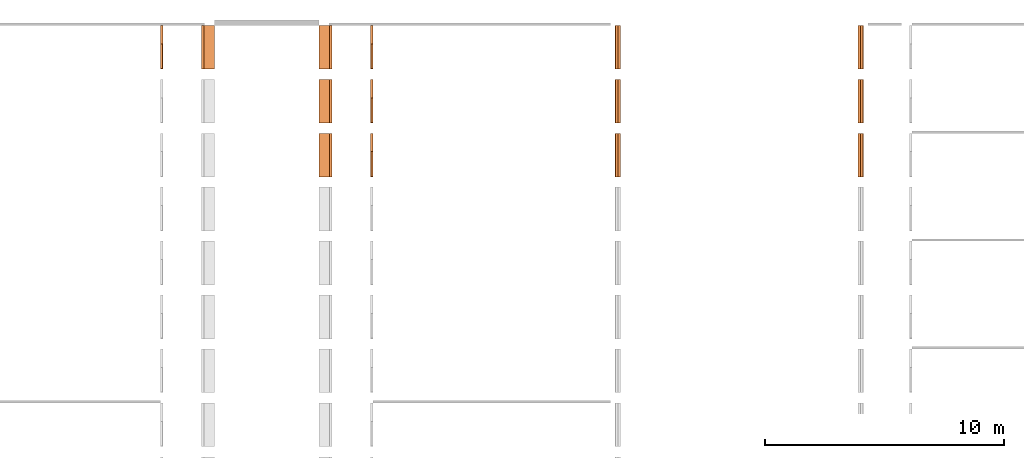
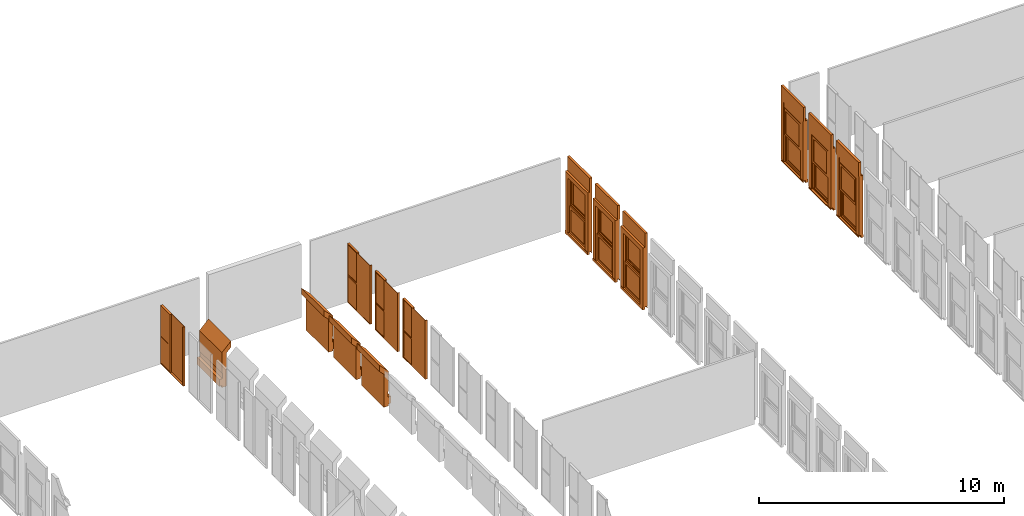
# One storey, part 15 of 16: 14 proxies.
"""IFC2X3 building model written with IfcOpenShell, lengths in millimetres."""

from ifc_helpers import new_model, entity, si_unit, converted_unit, derived_unit, direction, frame, frame_2d, origin, origin_2d_with_axis, place, context, subcontext, project, spatial, polyline, rectangle, outline, extrude, source, transform, mapped, material, material_list, type_object, type_shapes, element, save


model = new_model("IFC2X3")

# Units and contexts
model_context = context("Model", 3, precision=0.01, world=origin(), true_north=direction((6.12303176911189e-17, 1.0)))
body_context = subcontext(model_context, "Body", "Model", "MODEL_VIEW")
ifc_project = project(units=[si_unit("LENGTHUNIT", "METRE", prefix="MILLI"), si_unit("AREAUNIT", "SQUARE_METRE"), si_unit("VOLUMEUNIT", "CUBIC_METRE"), converted_unit("PLANEANGLEUNIT", "DEGREE", entity("IfcRatioMeasure", 0.0174532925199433), si_unit("PLANEANGLEUNIT", "RADIAN"), dimensions=[0, 0, 0, 0, 0, 0, 0]), si_unit("MASSUNIT", "GRAM", prefix="KILO"), derived_unit("MASSDENSITYUNIT", [(si_unit("MASSUNIT", "GRAM", prefix="KILO"), 1), (si_unit("LENGTHUNIT", "METRE"), -3)]), derived_unit("MOMENTOFINERTIAUNIT", [(si_unit("LENGTHUNIT", "METRE"), 4)]), si_unit("TIMEUNIT", "SECOND"), si_unit("FREQUENCYUNIT", "HERTZ"), si_unit("THERMODYNAMICTEMPERATUREUNIT", "DEGREE_CELSIUS"), derived_unit("THERMALTRANSMITTANCEUNIT", [(si_unit("MASSUNIT", "GRAM", prefix="KILO"), 1), (si_unit("THERMODYNAMICTEMPERATUREUNIT", "KELVIN"), -1), (si_unit("TIMEUNIT", "SECOND"), -3)]), derived_unit("VOLUMETRICFLOWRATEUNIT", [(si_unit("LENGTHUNIT", "METRE"), 3), (si_unit("TIMEUNIT", "SECOND"), -1)]), si_unit("ELECTRICCURRENTUNIT", "AMPERE"), si_unit("ELECTRICVOLTAGEUNIT", "VOLT"), si_unit("POWERUNIT", "WATT"), si_unit("FORCEUNIT", "NEWTON", prefix="KILO"), si_unit("ILLUMINANCEUNIT", "LUX"), si_unit("LUMINOUSFLUXUNIT", "LUMEN"), si_unit("LUMINOUSINTENSITYUNIT", "CANDELA"), derived_unit("USERDEFINED", [(si_unit("MASSUNIT", "GRAM", prefix="KILO"), -1), (si_unit("LENGTHUNIT", "METRE"), -2), (si_unit("TIMEUNIT", "SECOND"), 3), (si_unit("LUMINOUSFLUXUNIT", "LUMEN"), 1)]), derived_unit("LINEARVELOCITYUNIT", [(si_unit("LENGTHUNIT", "METRE"), 1), (si_unit("TIMEUNIT", "SECOND"), -1)]), si_unit("PRESSUREUNIT", "PASCAL"), derived_unit("USERDEFINED", [(si_unit("LENGTHUNIT", "METRE"), -2), (si_unit("MASSUNIT", "GRAM", prefix="KILO"), 1), (si_unit("TIMEUNIT", "SECOND"), -2)]), derived_unit("LINEARFORCEUNIT", [(si_unit("MASSUNIT", "GRAM", prefix="KILO"), 1), (si_unit("LENGTHUNIT", "METRE"), 1), (si_unit("TIMEUNIT", "SECOND"), -2), (si_unit("LENGTHUNIT", "METRE"), -1)]), derived_unit("PLANARFORCEUNIT", [(si_unit("MASSUNIT", "GRAM", prefix="KILO"), 1), (si_unit("LENGTHUNIT", "METRE"), 1), (si_unit("TIMEUNIT", "SECOND"), -2), (si_unit("LENGTHUNIT", "METRE"), -2)])], contexts=[model_context])

# Site, building, storey
site_placement = place(None, frame((10627.5135316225, 21939.0796949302, 0.0)))
site = spatial("IfcSite", under=ifc_project, at=site_placement, Name="Default", CompositionType="ELEMENT")
building_placement = place(site_placement, origin())
building = spatial("IfcBuilding", under=site, at=building_placement, CompositionType="ELEMENT")
storey_placement = place(building_placement, frame((0.0, 0.0, 3660.0)))
storey = spatial("IfcBuildingStorey", under=building, at=storey_placement, Name="R+1", CompositionType="ELEMENT", Elevation=3660.0)

# Proxies
ifc_material_1 = material(Name="PVC, Flexible")
ifc_material_2 = material(Name="Glass")
ifc_material_list_1 = material_list([ifc_material_1, ifc_material_2])
building_element_proxy_type_1 = type_object("IfcBuildingElementProxyType", Name="FENETRE.dwg:Fenetre ext 296+70", PredefinedType="NOTDEFINED", material=ifc_material_1)
shared_shape_1 = source(origin(), body_context, "Body", "SweptSolid", [
    extrude(rectangle(XDim=1829.99999999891, YDim=112.500043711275, at=origin_2d_with_axis()), frame((-10.4189092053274, 56.2500218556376, 2960.0), z_axis=(0.0, 0.0, 1.0), x_axis=(-1.0, 0.0, 0.0)), (0.0, 0.0, 1.0), 700.0),
    extrude(outline(polyline([(-68.5678005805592, -14.3879872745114), (-72.4883397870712, -33.9999574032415), (-67.5853472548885, -34.9800922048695), (-63.9024543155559, -16.5569155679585), (44.3087537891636, -16.5569155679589), (54.1101018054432, 32.4730097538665), (40.6268723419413, 35.1683804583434), (40.1368049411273, 32.7168841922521), (51.168538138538, 30.5115808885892), (42.1928709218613, -14.3879872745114), (-68.5678005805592, -14.3879872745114)])), frame((-925.418909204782, 66.917049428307, -47.5499763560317), z_axis=(-1.0, 0.0, 0.0), x_axis=(0.0, 0.980598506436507, -0.196026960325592)), (0.0, 0.0, -1.0), 1829.99999999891),
    extrude(outline(polyline([(-64.667066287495, -56.2500218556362), (66.1666874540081, -56.2500218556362), (66.1666874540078, 56.2500218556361), (-67.6663086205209, 56.2500218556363), (-64.667066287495, -56.2500218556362)])), frame((-925.418909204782, -56.2500218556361, -63.833312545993), z_axis=(1.0, 0.0, 0.0), x_axis=(0.0, 0.0, -1.0)), (0.0, 0.0, 1.0), 1829.99999999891),
    extrude(outline(polyline([(-55.5555555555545, 97.0007159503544), (-55.5555555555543, -5.85738417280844), (-55.5555555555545, -95.357341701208), (-45.5555555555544, -95.3573417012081), (-45.5555555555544, -105.357341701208), (174.444444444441, -105.357341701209), (174.444444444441, 106.642659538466), (-45.5555555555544, 106.642659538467), (-45.5555555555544, 97.0007159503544), (-55.5555555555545, 97.0007159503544)])), frame((849.025535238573, 5.85738417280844, 0.0), z_axis=(0.0, 0.0, -1.0), x_axis=(-1.0, 0.0, 0.0)), (0.0, 0.0, -1.0), 2960.0),
    extrude(rectangle(XDim=199.499957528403, YDim=1369.99999999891, at=origin_2d_with_axis()), frame((-10.4189092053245, 0.250021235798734, 2730.0), z_axis=(0.0, 0.0, 1.0), x_axis=(0.0, 1.0, 0.0)), (0.0, 0.0, 1.0), 230.000000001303),
    extrude(outline(polyline([(-97.0007159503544, -55.5555555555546), (5.85738417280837, -55.5555555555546), (95.357341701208, -55.5555555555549), (95.357341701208, -45.5555555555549), (105.357341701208, -45.5555555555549), (105.357341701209, 174.44444444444), (-106.642659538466, 174.444444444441), (-106.642659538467, -45.5555555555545), (-97.0007159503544, -45.5555555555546), (-97.0007159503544, -55.5555555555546)])), frame((-869.863353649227, 5.85738417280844, 0.0), z_axis=(0.0, 0.0, 1.0), x_axis=(0.0, -1.0, 0.0)), (0.0, 0.0, 1.0), 2960.0),
    extrude(rectangle(XDim=1.0, YDim=1079.99999999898, at=origin_2d_with_axis()), frame((-10.4189092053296, -19.5, 130.0), z_axis=(0.0, 0.0, 1.0), x_axis=(0.0, 1.0, 0.0)), (0.0, 0.0, 1.0), 1120.00000000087),
    extrude(rectangle(XDim=1.0, YDim=1079.99999999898, at=frame_2d((-4.21884749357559e-15, 0.0), x_axis=(1.0, 0.0))), frame((-10.4189092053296, -30.5, 130.0), z_axis=(0.0, 0.0, 1.0), x_axis=(0.0, 1.0, 0.0)), (0.0, 0.0, 1.0), 1120.00000000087),
    extrude(rectangle(XDim=1.0, YDim=1079.99999999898, at=frame_2d((-4.21884749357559e-15, 0.0), x_axis=(1.0, 0.0))), frame((-10.4189092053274, 69.5, 1465.0), z_axis=(0.0, 0.0, 1.0), x_axis=(0.0, 1.0, 0.0)), (0.0, 0.0, 1.0), 1120.0),
    extrude(rectangle(XDim=0.999999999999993, YDim=1079.99999999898, at=frame_2d((-8.46545056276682e-15, 0.0), x_axis=(1.0, 0.0))), frame((-10.4189092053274, 80.5, 1465.0), z_axis=(0.0, 0.0, 1.0), x_axis=(0.0, 1.0, 0.0)), (0.0, 0.0, 1.0), 1120.00000000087),
    extrude(outline(polyline([(-685.0, -1365.0), (0.0, -1365.0), (685.0, -1365.0), (685.0, 1365.0), (0.0, 1365.0), (-685.0, 1365.0), (-685.0, -1365.0)]), holes=[polyline([(-640.0, -1320.0), (-640.0, -45.0), (0.0, -45.0), (640.0, -45.0), (640.0, -1320.0), (0.0, -1320.0), (-640.0, -1320.0)]), polyline([(-640.0, 40.0), (-640.0, 1315.0), (0.0, 1315.0), (640.0, 1315.0), (640.0, 40.0), (0.0, 40.0), (-640.0, 40.0)])]), frame((-10.4189092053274, 0.0, 1365.0), z_axis=(0.0, 1.0, 0.0), x_axis=(1.0, 0.0, 0.0)), (0.0, 0.0, 1.0), 50.0),
    extrude(outline(polyline([(-655.0, -667.500000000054), (655.0, -667.500000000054), (655.0, 667.500000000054), (-655.0, 667.500000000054), (-655.0, -667.500000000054)]), holes=[polyline([(-540.0, 552.500000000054), (540.0, 552.500000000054), (540.0, -567.500000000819), (-540.0, -567.500000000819), (-540.0, 552.500000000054)])]), frame((-10.4189092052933, -50.0, 697.500000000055), z_axis=(0.0, 1.0, 0.0), x_axis=(-1.0, 0.0, 0.0)), (0.0, 0.0, 1.0), 50.0),
    extrude(outline(polyline([(-655.0, -667.500000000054), (655.0, -667.500000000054), (655.0, 667.500000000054), (-655.0, 667.500000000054), (-655.0, -667.500000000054)]), holes=[polyline([(-540.0, 552.500000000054), (540.0, 552.500000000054), (540.0, -567.500000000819), (-540.0, -567.500000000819), (-540.0, 552.500000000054)])]), frame((-10.4189092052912, 50.0, 2032.50000000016), z_axis=(0.0, 1.0, 0.0), x_axis=(-1.0, 0.0, 0.0)), (0.0, 0.0, 1.0), 50.0),
])
type_shapes(building_element_proxy_type_1, [shared_shape_1])
proxy_1_placement = place(storey_placement, frame((51469.9865120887, 15361.3392142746, 0.0), z_axis=(0.0, 0.0, 1.0), x_axis=(0.0, 1.0, 0.0)))
element("IfcBuildingElementProxy", 1, at=proxy_1_placement, inside=storey, type_object=building_element_proxy_type_1, material=ifc_material_list_1, Name="FENETRE.dwg:Fenetre ext 296+70", ObjectType="FENETRE.dwg:Fenetre ext 296+70", context=body_context, shape_type="MappedRepresentation", body=[
    mapped(shared_shape_1, transform((0.0, 0.0, 0.0), scale=1.0)),
])
ifc_material_list_2 = material_list([ifc_material_1, ifc_material_2])
proxy_2_placement = place(storey_placement, frame((51469.9865120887, 13101.3392142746, 0.0), z_axis=(0.0, 0.0, 1.0), x_axis=(0.0, 1.0, 0.0)))
element("IfcBuildingElementProxy", 2, at=proxy_2_placement, inside=storey, type_object=building_element_proxy_type_1, material=ifc_material_list_2, Name="FENETRE.dwg:Fenetre ext 296+70", ObjectType="FENETRE.dwg:Fenetre ext 296+70", context=body_context, shape_type="MappedRepresentation", body=[
    mapped(shared_shape_1, transform((0.0, 0.0, 0.0), scale=1.0)),
])
ifc_material_list_3 = material_list([ifc_material_1, ifc_material_2])
proxy_3_placement = place(storey_placement, frame((51469.9865120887, 10841.3392142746, 0.0), z_axis=(0.0, 0.0, 1.0), x_axis=(0.0, 1.0, 0.0)))
element("IfcBuildingElementProxy", 3, at=proxy_3_placement, inside=storey, type_object=building_element_proxy_type_1, material=ifc_material_list_3, Name="FENETRE.dwg:Fenetre ext 296+70", ObjectType="FENETRE.dwg:Fenetre ext 296+70", context=body_context, shape_type="MappedRepresentation", body=[
    mapped(shared_shape_1, transform((0.0, 0.0, 0.0), scale=1.0)),
])
ifc_material_list_4 = material_list([ifc_material_1, ifc_material_2])
building_element_proxy_type_2 = type_object("IfcBuildingElementProxyType", Name="FENETRE.dwg:Fenetre ext 296+70", PredefinedType="NOTDEFINED", material=ifc_material_1)
shared_shape_2 = source(origin(), body_context, "Body", "SweptSolid", [
    extrude(rectangle(XDim=112.500043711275, YDim=1829.99999999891, at=origin_2d_with_axis()), frame((-10.4189092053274, -56.2500218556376, 2960.0), z_axis=(0.0, 0.0, 1.0), x_axis=(0.0, 1.0, 0.0)), (0.0, 0.0, 1.0), 700.0),
    extrude(outline(polyline([(27.5499763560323, -64.4170494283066), (47.5499763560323, -64.4170494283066), (47.5499763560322, -59.4170494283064), (28.7622905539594, -59.4170494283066), (7.54997635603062, 46.6946996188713), (-42.4500236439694, 46.6946996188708), (-42.4500236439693, 32.9446996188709), (-39.9500236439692, 32.9446996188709), (-39.9500236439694, 44.1946996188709), (5.83789859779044, 44.1946996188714), (27.5499763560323, -64.4170494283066)])), frame((-925.418909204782, -66.917049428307, -47.5499763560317), z_axis=(1.0, 0.0, 0.0), x_axis=(0.0, 0.0, 1.0)), (0.0, 0.0, 1.0), 1829.99999999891),
    extrude(outline(polyline([(-54.506636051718, -66.1431859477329), (58.0333803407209, -66.1431859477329), (54.4666704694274, 67.6422744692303), (-57.9934147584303, 64.6440974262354), (-54.506636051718, -66.1431859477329)])), frame((-925.418909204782, 56.2500218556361, -63.833312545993), z_axis=(1.0, 0.0, 0.0), x_axis=(0.0, -0.999644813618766, 0.0266504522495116)), (0.0, 0.0, 1.0), 1829.99999999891),
    extrude(outline(polyline([(-97.0007159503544, -55.5555555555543), (5.85738417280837, -55.5555555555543), (95.357341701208, -55.5555555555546), (95.357341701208, -45.5555555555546), (105.357341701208, -45.5555555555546), (105.357341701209, 174.444444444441), (-106.642659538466, 174.444444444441), (-106.642659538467, -45.5555555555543), (-97.0007159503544, -45.5555555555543), (-97.0007159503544, -55.5555555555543)])), frame((849.025535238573, -5.85738417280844, 0.0), z_axis=(0.0, 0.0, 1.0), x_axis=(0.0, 1.0, 0.0)), (0.0, 0.0, 1.0), 2960.0),
    extrude(rectangle(XDim=1369.99999999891, YDim=199.499957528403, at=origin_2d_with_axis()), frame((-10.4189092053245, -0.250021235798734, 2730.0), z_axis=(0.0, 0.0, 1.0), x_axis=(-1.0, 0.0, 0.0)), (0.0, 0.0, 1.0), 230.000000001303),
    extrude(outline(polyline([(-55.5555555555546, 97.0007159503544), (-55.5555555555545, -5.85738417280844), (-55.5555555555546, -95.357341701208), (-45.5555555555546, -95.3573417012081), (-45.5555555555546, -105.357341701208), (174.444444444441, -105.357341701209), (174.444444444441, 106.642659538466), (-45.5555555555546, 106.642659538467), (-45.5555555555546, 97.0007159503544), (-55.5555555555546, 97.0007159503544)])), frame((-869.863353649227, -5.85738417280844, 0.0), z_axis=(0.0, 0.0, -1.0), x_axis=(1.0, 0.0, 0.0)), (0.0, 0.0, -1.0), 2960.0),
    extrude(rectangle(XDim=1079.99999999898, YDim=1.0, at=origin_2d_with_axis()), frame((-10.4189092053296, 19.5, 130.0), z_axis=(0.0, 0.0, 1.0), x_axis=(-1.0, 0.0, 0.0)), (0.0, 0.0, 1.0), 1120.00000000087),
    extrude(rectangle(XDim=1079.99999999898, YDim=1.0, at=origin_2d_with_axis()), frame((-10.4189092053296, 30.5, 130.0), z_axis=(0.0, 0.0, 1.0), x_axis=(-1.0, 0.0, 0.0)), (0.0, 0.0, 1.0), 1120.00000000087),
    extrude(rectangle(XDim=1079.99999999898, YDim=1.0, at=frame_2d((0.0, 4.21884749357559e-15), x_axis=(1.0, 0.0))), frame((-10.4189092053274, -69.5, 1465.0), z_axis=(0.0, 0.0, 1.0), x_axis=(-1.0, 0.0, 0.0)), (0.0, 0.0, 1.0), 1120.0),
    extrude(rectangle(XDim=1079.99999999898, YDim=0.999999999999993, at=frame_2d((0.0, -8.46545056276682e-15), x_axis=(1.0, 0.0))), frame((-10.4189092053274, -80.5, 1465.0), z_axis=(0.0, 0.0, 1.0), x_axis=(-1.0, 0.0, 0.0)), (0.0, 0.0, 1.0), 1120.00000000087),
    extrude(outline(polyline([(-685.0, -1365.0), (0.0, -1365.0), (685.0, -1365.0), (685.0, 1365.0), (0.0, 1365.0), (-685.0, 1365.0), (-685.0, -1365.0)]), holes=[polyline([(-640.0, -1320.0), (-640.0, -45.0), (0.0, -45.0), (640.0, -45.0), (640.0, -1320.0), (0.0, -1320.0), (-640.0, -1320.0)]), polyline([(-640.0, 40.0), (-640.0, 1315.0), (0.0, 1315.0), (640.0, 1315.0), (640.0, 40.0), (0.0, 40.0), (-640.0, 40.0)])]), frame((-10.4189092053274, -50.0, 1365.0), z_axis=(0.0, 1.0, 0.0), x_axis=(1.0, 0.0, 0.0)), (0.0, 0.0, 1.0), 50.0),
    extrude(outline(polyline([(-655.0, -667.500000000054), (655.0, -667.500000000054), (655.0, 667.500000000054), (-655.0, 667.500000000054), (-655.0, -667.500000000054)]), holes=[polyline([(-540.0, 552.500000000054), (540.0, 552.500000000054), (540.0, -567.500000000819), (-540.0, -567.500000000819), (-540.0, 552.500000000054)])]), frame((-10.4189092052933, 0.0, 697.500000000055), z_axis=(0.0, 1.0, 0.0), x_axis=(-1.0, 0.0, 0.0)), (0.0, 0.0, 1.0), 50.0),
    extrude(outline(polyline([(-655.0, -667.500000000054), (655.0, -667.500000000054), (655.0, 667.500000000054), (-655.0, 667.500000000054), (-655.0, -667.500000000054)]), holes=[polyline([(-540.0, 552.500000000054), (540.0, 552.500000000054), (540.0, -567.500000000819), (-540.0, -567.500000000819), (-540.0, 552.500000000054)])]), frame((-10.4189092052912, -100.0, 2032.50000000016), z_axis=(0.0, 1.0, 0.0), x_axis=(-1.0, 0.0, 0.0)), (0.0, 0.0, 1.0), 50.0),
])
type_shapes(building_element_proxy_type_2, [shared_shape_2])
proxy_4_placement = place(storey_placement, frame((41294.0694789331, 15361.3392142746, 0.0), z_axis=(0.0, 0.0, 1.0), x_axis=(0.0, 1.0, 0.0)))
element("IfcBuildingElementProxy", 4, at=proxy_4_placement, inside=storey, type_object=building_element_proxy_type_2, material=ifc_material_list_4, Name="FENETRE.dwg:Fenetre ext 296+70", ObjectType="FENETRE.dwg:Fenetre ext 296+70", context=body_context, shape_type="MappedRepresentation", body=[
    mapped(shared_shape_2, transform((0.0, 0.0, 0.0), scale=1.0)),
])
ifc_material_list_5 = material_list([ifc_material_1, ifc_material_2])
proxy_5_placement = place(storey_placement, frame((41294.0694789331, 13101.3392142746, 0.0), z_axis=(0.0, 0.0, 1.0), x_axis=(0.0, 1.0, 0.0)))
element("IfcBuildingElementProxy", 5, at=proxy_5_placement, inside=storey, type_object=building_element_proxy_type_2, material=ifc_material_list_5, Name="FENETRE.dwg:Fenetre ext 296+70", ObjectType="FENETRE.dwg:Fenetre ext 296+70", context=body_context, shape_type="MappedRepresentation", body=[
    mapped(shared_shape_2, transform((0.0, 0.0, 0.0), scale=1.0)),
])
ifc_material_list_6 = material_list([ifc_material_1, ifc_material_2])
proxy_6_placement = place(storey_placement, frame((41294.0694789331, 10841.3392142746, 0.0), z_axis=(0.0, 0.0, 1.0), x_axis=(0.0, 1.0, 0.0)))
element("IfcBuildingElementProxy", 6, at=proxy_6_placement, inside=storey, type_object=building_element_proxy_type_2, material=ifc_material_list_6, Name="FENETRE.dwg:Fenetre ext 296+70", ObjectType="FENETRE.dwg:Fenetre ext 296+70", context=body_context, shape_type="MappedRepresentation", body=[
    mapped(shared_shape_2, transform((0.0, 0.0, 0.0), scale=1.0)),
])
ifc_material_3 = material(Name="Plywood, Sheathing")
ifc_material_list_7 = material_list([ifc_material_3, ifc_material_2])
building_element_proxy_type_3 = type_object("IfcBuildingElementProxyType", Name="Porte noire:Porte noire", PredefinedType="NOTDEFINED", material=ifc_material_3)
shared_shape_3 = source(origin(), body_context, "Body", "SweptSolid", [
    extrude(rectangle(XDim=100.0, YDim=23.0000000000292, at=origin_2d_with_axis()), frame((-950.918997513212, -50.0, 8.73189890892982), z_axis=(0.0, 0.0, 1.0), x_axis=(0.0, 1.0, 0.0)), (0.0, 0.0, 1.0), 2933.34951039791),
    extrude(rectangle(XDim=19.0, YDim=1038.0, at=frame_2d((7.99360577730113e-15, 0.0), x_axis=(1.0, 0.0))), frame((-420.418997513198, -87.5, 43.7318989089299), z_axis=(0.0, 0.0, 1.0), x_axis=(0.0, 1.0, 0.0)), (0.0, 0.0, 1.0), 2898.5),
    extrude(rectangle(XDim=100.0, YDim=1775.0, at=origin_2d_with_axis()), frame((-51.9189975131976, -50.0, 8.73189890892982), z_axis=(0.0, 0.0, 1.0), x_axis=(0.0, 1.0, 0.0)), (0.0, 0.0, 1.0), 35.0000000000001),
    extrude(rectangle(XDim=100.0, YDim=35.0000000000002, at=origin_2d_with_axis()), frame((853.081002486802, -50.0, 8.73189890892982), z_axis=(0.0, 0.0, 1.0), x_axis=(0.0, 1.0, 0.0)), (0.0, 0.0, 1.0), 2898.5),
    extrude(rectangle(XDim=100.0, YDim=740.0, at=origin_2d_with_axis()), frame((500.581002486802, -50.0, 2907.23189890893), z_axis=(0.0, 0.0, 1.0), x_axis=(0.0, 1.0, 0.0)), (0.0, 0.0, 1.0), 35.0000000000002),
    extrude(rectangle(XDim=100.0, YDim=31.9999999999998, at=origin_2d_with_axis()), frame((114.581002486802, -50.0, 43.7318989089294), z_axis=(0.0, 0.0, 1.0), x_axis=(0.0, 1.0, 0.0)), (0.0, 0.0, 1.0), 2898.5),
    extrude(rectangle(XDim=100.0, YDim=705.0, at=origin_2d_with_axis()), frame((483.081002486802, -50.0, 1343.73189890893), z_axis=(0.0, 0.0, 1.0), x_axis=(0.0, 1.0, 0.0)), (0.0, 0.0, 1.0), 55.0),
    extrude(outline(polyline([(-352.5, -650.0), (352.5, -650.0), (352.5, 650.0), (-352.5, 650.0), (-352.5, -650.0)]), holes=[polyline([(342.5, 640.0), (342.5, -640.0), (-342.5, -640.0), (-342.5, 640.0), (342.5, 640.0)])]), frame((483.081002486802, -80.0, 693.73189890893), z_axis=(0.0, 1.0, 0.0), x_axis=(1.0, 0.0, 0.0)), (0.0, 0.0, 1.0), 70.0),
    extrude(outline(polyline([(-754.25, -352.5), (754.25, -352.5), (754.25, 352.5), (-754.25, 352.5), (-754.25, -352.5)]), holes=[polyline([(744.25, 342.5), (744.25, -342.5), (-744.25, -342.5), (-744.25, 342.5), (744.25, 342.5)])]), frame((483.081002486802, -80.0, 2152.98189890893), z_axis=(0.0, 1.0, 0.0), x_axis=(0.0, 0.0, 1.0)), (0.0, 0.0, 1.0), 70.0),
    extrude(outline(polyline([(-640.0, -342.5), (640.0, -342.5), (640.0, 342.5), (-640.0, 342.5), (-640.0, -342.5)]), holes=[polyline([(630.0, 332.5), (630.0, -332.5), (-630.0, -332.5), (-630.0, 332.5), (630.0, 332.5)])]), frame((483.081002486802, -81.0, 693.731898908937), z_axis=(0.0, 1.0, 0.0), x_axis=(0.0, 0.0, 1.0)), (0.0, 0.0, 1.0), 3.99999999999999),
    extrude(outline(polyline([(-744.25, -342.5), (744.25, -342.5), (744.25, 342.5), (-744.25, 342.5), (-744.25, -342.5)]), holes=[polyline([(734.25, 332.5), (734.25, -332.5), (-734.25, -332.5), (-734.25, 332.5), (734.25, 332.5)])]), frame((483.081002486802, -81.0, 2152.98189890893), z_axis=(0.0, 1.0, 0.0), x_axis=(0.0, 0.0, 1.0)), (0.0, 0.0, 1.0), 3.99999999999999),
    extrude(outline(polyline([(-640.0, -342.5), (640.0, -342.5), (640.0, 342.5), (-640.0, 342.5), (-640.0, -342.5)]), holes=[polyline([(630.0, 332.5), (630.0, -332.5), (-630.0, -332.5), (-630.0, 332.5), (630.0, 332.5)])]), frame((483.081002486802, -15.0, 693.782575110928), z_axis=(0.0, 1.0, 0.0), x_axis=(0.0, 0.0, 1.0)), (0.0, 0.0, 1.0), 5.0),
    extrude(outline(polyline([(-744.25, -342.5), (744.25, -342.5), (744.25, 342.5), (-744.25, 342.5), (-744.25, -342.5)]), holes=[polyline([(734.25, 332.5), (734.25, -332.5), (-734.25, -332.5), (-734.25, 332.5), (734.25, 332.5)])]), frame((483.081002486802, -15.0, 2153.03257511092), z_axis=(0.0, 1.0, 0.0), x_axis=(0.0, 0.0, 1.0)), (0.0, 0.0, 1.0), 5.0),
    extrude(rectangle(XDim=2.0, YDim=665.0, at=frame_2d((8.43769498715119e-15, 0.0), x_axis=(1.0, 0.0))), frame((483.081002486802, -79.0, 1418.73189890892), z_axis=(0.0, 0.0, 1.0), x_axis=(0.0, 1.0, 0.0)), (0.0, 0.0, 1.0), 1468.50000000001),
    extrude(rectangle(XDim=2.0, YDim=665.0, at=frame_2d((8.43769498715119e-15, 0.0), x_axis=(1.0, 0.0))), frame((483.081002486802, -79.0, 63.7318989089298), z_axis=(0.0, 0.0, 1.0), x_axis=(0.0, 1.0, 0.0)), (0.0, 0.0, 1.0), 1260.0),
    extrude(rectangle(XDim=2.0, YDim=665.0, at=frame_2d((1.0547118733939e-15, 0.0), x_axis=(1.0, 0.0))), frame((483.081002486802, -13.0, 1418.78257511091), z_axis=(0.0, 0.0, 1.0), x_axis=(0.0, 1.0, 0.0)), (0.0, 0.0, 1.0), 1468.50000000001),
    extrude(rectangle(XDim=2.0, YDim=665.0, at=frame_2d((1.0547118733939e-15, 0.0), x_axis=(1.0, 0.0))), frame((483.081002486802, -13.0, 63.7825751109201), z_axis=(0.0, 0.0, 1.0), x_axis=(0.0, 1.0, 0.0)), (0.0, 0.0, 1.0), 1260.0),
])
type_shapes(building_element_proxy_type_3, [shared_shape_3])
proxy_7_placement = place(storey_placement, frame((22127.8464640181, 15397.3393025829, 0.0), z_axis=(0.0, 0.0, 1.0), x_axis=(0.0, 1.0, 0.0)))
element("IfcBuildingElementProxy", 7, at=proxy_7_placement, inside=storey, type_object=building_element_proxy_type_3, material=ifc_material_list_7, Name="Porte noire:Porte noire", ObjectType="Porte noire:Porte noire", context=body_context, shape_type="MappedRepresentation", body=[
    mapped(shared_shape_3, transform((0.0, 0.0, 0.0), scale=1.0)),
])
ifc_material_list_8 = material_list([ifc_material_3, ifc_material_2])
building_element_proxy_type_4 = type_object("IfcBuildingElementProxyType", Name="Porte noire:Porte noire", PredefinedType="NOTDEFINED", material=ifc_material_3)
shared_shape_4 = source(origin(), body_context, "Body", "SweptSolid", [
    extrude(rectangle(XDim=23.0000000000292, YDim=100.0, at=frame_2d((-1.35891298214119e-13, 0.0), x_axis=(1.0, 0.0))), frame((-950.918997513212, 50.0, 8.73189890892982), z_axis=(0.0, 0.0, 1.0), x_axis=(-1.0, 0.0, 0.0)), (0.0, 0.0, 1.0), 2933.34951039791),
    extrude(rectangle(XDim=1038.0, YDim=19.0, at=frame_2d((0.0, 7.99360577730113e-15), x_axis=(1.0, 0.0))), frame((-420.418997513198, 87.5, 43.7318989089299), z_axis=(0.0, 0.0, 1.0), x_axis=(-1.0, 0.0, 0.0)), (0.0, 0.0, 1.0), 2898.5),
    extrude(rectangle(XDim=1775.0, YDim=100.0, at=origin_2d_with_axis()), frame((-51.9189975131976, 50.0, 8.73189890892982), z_axis=(0.0, 0.0, 1.0), x_axis=(-1.0, 0.0, 0.0)), (0.0, 0.0, 1.0), 35.0000000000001),
    extrude(rectangle(XDim=35.0000000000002, YDim=100.0, at=origin_2d_with_axis()), frame((853.081002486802, 50.0, 8.73189890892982), z_axis=(0.0, 0.0, 1.0), x_axis=(-1.0, 0.0, 0.0)), (0.0, 0.0, 1.0), 2898.5),
    extrude(rectangle(XDim=740.0, YDim=100.0, at=origin_2d_with_axis()), frame((500.581002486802, 50.0, 2907.23189890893), z_axis=(0.0, 0.0, 1.0), x_axis=(-1.0, 0.0, 0.0)), (0.0, 0.0, 1.0), 35.0000000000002),
    extrude(rectangle(XDim=31.9999999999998, YDim=100.0, at=origin_2d_with_axis()), frame((114.581002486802, 50.0, 43.7318989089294), z_axis=(0.0, 0.0, 1.0), x_axis=(-1.0, 0.0, 0.0)), (0.0, 0.0, 1.0), 2898.5),
    extrude(rectangle(XDim=705.0, YDim=100.0, at=origin_2d_with_axis()), frame((483.081002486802, 50.0, 1343.73189890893), z_axis=(0.0, 0.0, 1.0), x_axis=(-1.0, 0.0, 0.0)), (0.0, 0.0, 1.0), 55.0),
    extrude(outline(polyline([(-352.5, -650.0), (352.5, -650.0), (352.5, 650.0), (-352.5, 650.0), (-352.5, -650.0)]), holes=[polyline([(342.5, 640.0), (342.5, -640.0), (-342.5, -640.0), (-342.5, 640.0), (342.5, 640.0)])]), frame((483.081002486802, 10.0, 693.73189890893), z_axis=(0.0, 1.0, 0.0), x_axis=(1.0, 0.0, 0.0)), (0.0, 0.0, 1.0), 70.0),
    extrude(outline(polyline([(-754.25, -352.5), (754.25, -352.5), (754.25, 352.5), (-754.25, 352.5), (-754.25, -352.5)]), holes=[polyline([(744.25, 342.5), (744.25, -342.5), (-744.25, -342.5), (-744.25, 342.5), (744.25, 342.5)])]), frame((483.081002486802, 10.0, 2152.98189890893), z_axis=(0.0, 1.0, 0.0), x_axis=(0.0, 0.0, 1.0)), (0.0, 0.0, 1.0), 70.0),
    extrude(outline(polyline([(-640.0, -342.5), (640.0, -342.5), (640.0, 342.5), (-640.0, 342.5), (-640.0, -342.5)]), holes=[polyline([(630.0, 332.5), (630.0, -332.5), (-630.0, -332.5), (-630.0, 332.5), (630.0, 332.5)])]), frame((483.081002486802, 77.0, 693.731898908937), z_axis=(0.0, 1.0, 0.0), x_axis=(0.0, 0.0, 1.0)), (0.0, 0.0, 1.0), 3.99999999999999),
    extrude(outline(polyline([(-744.25, -342.5), (744.25, -342.5), (744.25, 342.5), (-744.25, 342.5), (-744.25, -342.5)]), holes=[polyline([(734.25, 332.5), (734.25, -332.5), (-734.25, -332.5), (-734.25, 332.5), (734.25, 332.5)])]), frame((483.081002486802, 77.0, 2152.98189890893), z_axis=(0.0, 1.0, 0.0), x_axis=(0.0, 0.0, 1.0)), (0.0, 0.0, 1.0), 3.99999999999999),
    extrude(outline(polyline([(-640.0, -342.5), (640.0, -342.5), (640.0, 342.5), (-640.0, 342.5), (-640.0, -342.5)]), holes=[polyline([(630.0, 332.5), (630.0, -332.5), (-630.0, -332.5), (-630.0, 332.5), (630.0, 332.5)])]), frame((483.081002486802, 10.0, 693.782575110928), z_axis=(0.0, 1.0, 0.0), x_axis=(0.0, 0.0, 1.0)), (0.0, 0.0, 1.0), 5.0),
    extrude(outline(polyline([(-744.25, -342.5), (744.25, -342.5), (744.25, 342.5), (-744.25, 342.5), (-744.25, -342.5)]), holes=[polyline([(734.25, 332.5), (734.25, -332.5), (-734.25, -332.5), (-734.25, 332.5), (734.25, 332.5)])]), frame((483.081002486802, 10.0, 2153.03257511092), z_axis=(0.0, 1.0, 0.0), x_axis=(0.0, 0.0, 1.0)), (0.0, 0.0, 1.0), 5.0),
    extrude(rectangle(XDim=665.0, YDim=2.0, at=frame_2d((0.0, 8.43769498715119e-15), x_axis=(1.0, 0.0))), frame((483.081002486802, 79.0, 1418.73189890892), z_axis=(0.0, 0.0, 1.0), x_axis=(-1.0, 0.0, 0.0)), (0.0, 0.0, 1.0), 1468.50000000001),
    extrude(rectangle(XDim=665.0, YDim=2.0, at=frame_2d((0.0, 8.43769498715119e-15), x_axis=(1.0, 0.0))), frame((483.081002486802, 79.0, 63.7318989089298), z_axis=(0.0, 0.0, 1.0), x_axis=(-1.0, 0.0, 0.0)), (0.0, 0.0, 1.0), 1260.0),
    extrude(rectangle(XDim=665.0, YDim=2.0, at=frame_2d((0.0, 1.0547118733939e-15), x_axis=(1.0, 0.0))), frame((483.081002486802, 13.0, 1418.78257511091), z_axis=(0.0, 0.0, 1.0), x_axis=(-1.0, 0.0, 0.0)), (0.0, 0.0, 1.0), 1468.50000000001),
    extrude(rectangle(XDim=665.0, YDim=2.0, at=frame_2d((0.0, 1.0547118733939e-15), x_axis=(1.0, 0.0))), frame((483.081002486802, 13.0, 63.7825751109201), z_axis=(0.0, 0.0, 1.0), x_axis=(-1.0, 0.0, 0.0)), (0.0, 0.0, 1.0), 1260.0),
])
type_shapes(building_element_proxy_type_4, [shared_shape_4])
proxy_8_placement = place(storey_placement, frame((31027.1264727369, 10877.3393025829, 0.0), z_axis=(0.0, 0.0, 1.0), x_axis=(0.0, 1.0, 0.0)))
element("IfcBuildingElementProxy", 8, at=proxy_8_placement, inside=storey, type_object=building_element_proxy_type_4, material=ifc_material_list_8, Name="Porte noire:Porte noire", ObjectType="Porte noire:Porte noire", context=body_context, shape_type="MappedRepresentation", body=[
    mapped(shared_shape_4, transform((0.0, 0.0, 0.0), scale=1.0)),
])
ifc_material_list_9 = material_list([ifc_material_3, ifc_material_2])
proxy_9_placement = place(storey_placement, frame((31027.1264727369, 13137.3393025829, 0.0), z_axis=(0.0, 0.0, 1.0), x_axis=(0.0, 1.0, 0.0)))
element("IfcBuildingElementProxy", 9, at=proxy_9_placement, inside=storey, type_object=building_element_proxy_type_4, material=ifc_material_list_9, Name="Porte noire:Porte noire", ObjectType="Porte noire:Porte noire", context=body_context, shape_type="MappedRepresentation", body=[
    mapped(shared_shape_4, transform((0.0, 0.0, 0.0), scale=1.0)),
])
ifc_material_list_10 = material_list([ifc_material_3, ifc_material_2])
proxy_10_placement = place(storey_placement, frame((31027.1264727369, 15397.3393025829, 0.0), z_axis=(0.0, 0.0, 1.0), x_axis=(0.0, 1.0, 0.0)))
element("IfcBuildingElementProxy", 10, at=proxy_10_placement, inside=storey, type_object=building_element_proxy_type_4, material=ifc_material_list_10, Name="Porte noire:Porte noire", ObjectType="Porte noire:Porte noire", context=body_context, shape_type="MappedRepresentation", body=[
    mapped(shared_shape_4, transform((0.0, 0.0, 0.0), scale=1.0)),
])
ifc_material_4 = material(Name="Concrete, Precast Smooth, Light Grey")
building_element_proxy_type_5 = type_object("IfcBuildingElementProxyType", Name="Panneaux mediateque:Panneaux mediateque", PredefinedType="NOTDEFINED", material=ifc_material_4)
shared_shape_5 = source(origin(), body_context, "Body", "SweptSolid", [
    extrude(outline(polyline([(-998.434688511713, -508.899393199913), (-1213.39514999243, -723.859854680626), (-605.283318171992, -723.859854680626), (115.965598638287, -2.61093787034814), (101.823463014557, 11.5311977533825), (296.277827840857, 205.985562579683), (310.419963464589, 191.843426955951), (395.272229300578, 106.991161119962), (639.224068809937, 350.943000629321), (554.371802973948, 435.79526646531), (625.082466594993, 506.505930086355), (473.054508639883, 658.533888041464), (-694.378772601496, -508.899393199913), (-998.434688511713, -508.899393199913)])), frame((0.0, -203.845498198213, 800.153828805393), z_axis=(-1.0, 0.0, 0.0), x_axis=(0.0, 0.707106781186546, -0.707106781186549)), (0.0, 0.0, -1.0), 1830.0),
])
type_shapes(building_element_proxy_type_5, [shared_shape_5])
proxy_11_placement = place(storey_placement, frame((23837.4872432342, 14435.9203050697, -700.0), z_axis=(0.0, 0.0, 1.0), x_axis=(0.0, 1.0, 0.0)))
element("IfcBuildingElementProxy", 11, at=proxy_11_placement, inside=storey, type_object=building_element_proxy_type_5, material=ifc_material_4, Name="Panneaux mediateque:Panneaux mediateque", ObjectType="Panneaux mediateque:Panneaux mediateque", context=body_context, shape_type="MappedRepresentation", body=[
    mapped(shared_shape_5, transform((0.0, 0.0, 0.0), scale=1.0)),
])
building_element_proxy_type_6 = type_object("IfcBuildingElementProxyType", Name="Panneaux mediateque:Panneaux mediateque", PredefinedType="NOTDEFINED", material=ifc_material_4)
shared_shape_6 = source(origin(), body_context, "Body", "SweptSolid", [
    extrude(outline(polyline([(1065.84615069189, -346.153726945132), (1369.84615069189, -346.153726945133), (939.84615069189, 83.8462730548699), (-80.1538493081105, 83.8462730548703), (-80.1538493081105, 63.8462730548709), (-355.15384930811, 63.8462730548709), (-355.15384930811, 83.8462730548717), (-355.15384930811, 203.845498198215), (-700.153849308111, 203.845498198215), (-700.153849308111, 83.8462730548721), (-800.153828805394, 83.8462730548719), (-800.153828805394, -131.153726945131), (850.846150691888, -131.153726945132), (1065.84615069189, -346.153726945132)])), frame((0.0, 203.845498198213, 800.153828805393), z_axis=(1.0, 0.0, 0.0), x_axis=(0.0, 0.0, 1.0)), (0.0, 0.0, 1.0), 1830.0),
])
type_shapes(building_element_proxy_type_6, [shared_shape_6])
for number, where, z_axis, x_axis, name in (
    (12, (29317.4856935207, 14435.9203050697, -700.0), (0.0, 0.0, 1.0), (0.0, 1.0, 0.0), "Panneaux mediateque:Panneaux mediateque"),
    (13, (29317.4856935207, 12175.9203050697, -700.0), (0.0, 0.0, 1.0), (0.0, 1.0, 0.0), "Panneaux mediateque:Panneaux mediateque"),
    (14, (29317.4856935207, 9915.92030506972, -700.0), (0.0, 0.0, 1.0), (0.0, 1.0, 0.0), "Panneaux mediateque:Panneaux mediateque"),
):
    element("IfcBuildingElementProxy", number, at=place(storey_placement, frame(where, z_axis=z_axis, x_axis=x_axis)), inside=storey, type_object=building_element_proxy_type_6, material=ifc_material_4, Name=name, ObjectType="Panneaux mediateque:Panneaux mediateque", context=body_context, shape_type="MappedRepresentation", body=[
        mapped(shared_shape_6, transform((0.0, 0.0, 0.0), scale=1.0)),
    ])

save(model, "model.ifc")
